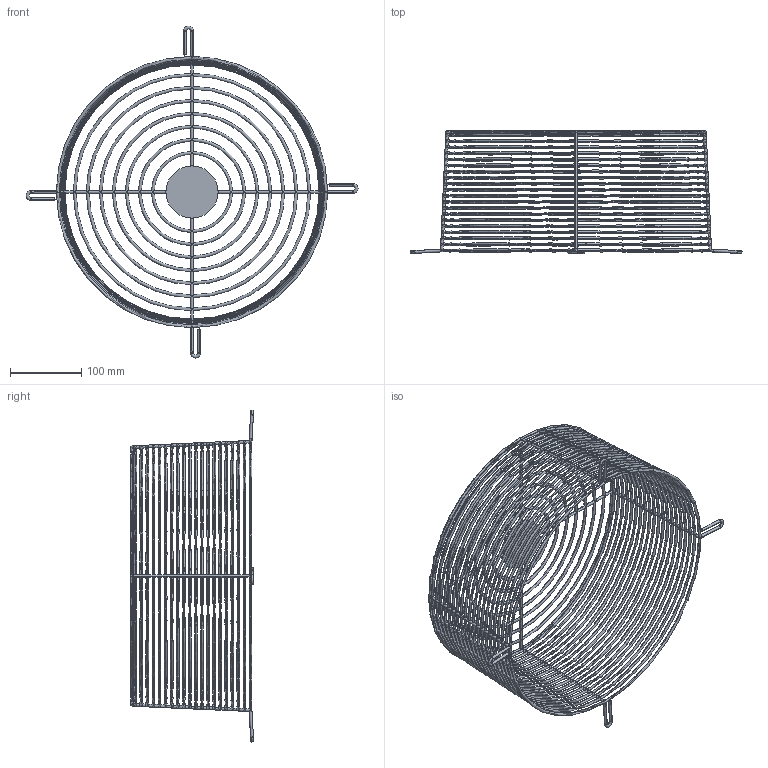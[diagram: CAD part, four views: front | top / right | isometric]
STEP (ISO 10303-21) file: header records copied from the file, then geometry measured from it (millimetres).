
FILE_DESCRIPTION(('STEP AP214'),'1');
FILE_NAME('accessory_5138824800.stp','2017-10-09T10:17:16',('TraceParts'),('TraceParts S.A.'),'Spatial InterOp 3D',' ',' ');
FILE_SCHEMA(('automotive_design'));
Length unit declared in the file: millimetre
Products named in the file (1): accessory_5138824800
Bounding box: 465 x 172 x 465 mm (x, y, z)
Volume: 397774.2 mm3; surface area: 387007.6 mm2
Topology: 1 solids, 1 shells, 232 faces, 1216 edges, 748 vertices
Faces by surface type: torus 136, cylinder 62, plane 26, sphere 8
Entity records: 26070 total; most frequent: CARTESIAN_POINT 15555, ORIENTED_EDGE 2400, DIRECTION 1378, EDGE_CURVE 1200, VERTEX_POINT 748, B_SPLINE_CURVE_WITH_KNOTS 652, AXIS2_PLACEMENT_3D 597, CIRCLE 348
